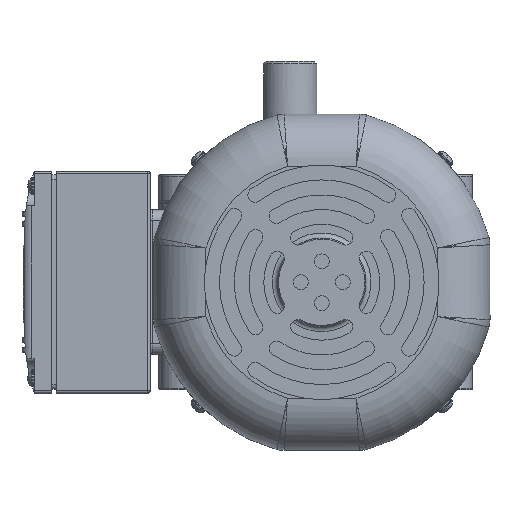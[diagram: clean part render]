
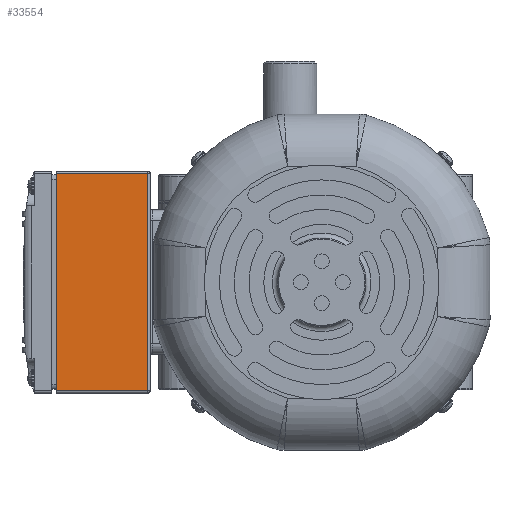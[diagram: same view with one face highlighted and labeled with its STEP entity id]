
A CAD part, left-side view. The second image highlights one B-rep face of the part: STEP entity #33554.
In plain terms, the highlighted planar face has unit normal (-1, 0, 0).
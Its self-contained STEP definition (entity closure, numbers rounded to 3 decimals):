
#694=PLANE('',#35815);
#1921=FACE_OUTER_BOUND('',#3864,.T.);
#3864=EDGE_LOOP('',(#22793,#22794,#22795,#22796));
#8182=LINE('',#51984,#10626);
#8183=LINE('',#51986,#10627);
#8184=LINE('',#51988,#10628);
#8185=LINE('',#51989,#10629);
#10626=VECTOR('',#40945,10.);
#10627=VECTOR('',#40946,10.);
#10628=VECTOR('',#40947,10.);
#10629=VECTOR('',#40948,10.);
#13507=VERTEX_POINT('',#51982);
#13508=VERTEX_POINT('',#51983);
#13509=VERTEX_POINT('',#51985);
#13510=VERTEX_POINT('',#51987);
#16969=EDGE_CURVE('',#13507,#13508,#8182,.T.);
#16970=EDGE_CURVE('',#13509,#13507,#8183,.T.);
#16971=EDGE_CURVE('',#13509,#13510,#8184,.T.);
#16972=EDGE_CURVE('',#13508,#13510,#8185,.T.);
#22793=ORIENTED_EDGE('',*,*,#16969,.F.);
#22794=ORIENTED_EDGE('',*,*,#16970,.F.);
#22795=ORIENTED_EDGE('',*,*,#16971,.T.);
#22796=ORIENTED_EDGE('',*,*,#16972,.F.);
#33554=ADVANCED_FACE('',(#1921),#694,.T.);
#35815=AXIS2_PLACEMENT_3D('',#51981,#40943,#40944);
#40943=DIRECTION('center_axis',(-1.,0.,0.));
#40944=DIRECTION('ref_axis',(0.,1.,0.));
#40945=DIRECTION('',(0.,0.,-1.));
#40946=DIRECTION('',(0.,-1.,0.));
#40947=DIRECTION('',(0.,0.,-1.));
#40948=DIRECTION('',(0.,1.,0.));
#51981=CARTESIAN_POINT('Origin',(-235.,56.5,45.065));
#51982=CARTESIAN_POINT('',(-235.,57.5,44.065));
#51983=CARTESIAN_POINT('',(-235.,57.5,-43.935));
#51984=CARTESIAN_POINT('',(-235.,57.5,22.565));
#51985=CARTESIAN_POINT('',(-235.,94.5,44.065));
#51986=CARTESIAN_POINT('',(-235.,56.5,44.065));
#51987=CARTESIAN_POINT('',(-235.,94.5,-43.935));
#51988=CARTESIAN_POINT('',(-235.,94.5,-44.935));
#51989=CARTESIAN_POINT('',(-235.,56.5,-43.935));
